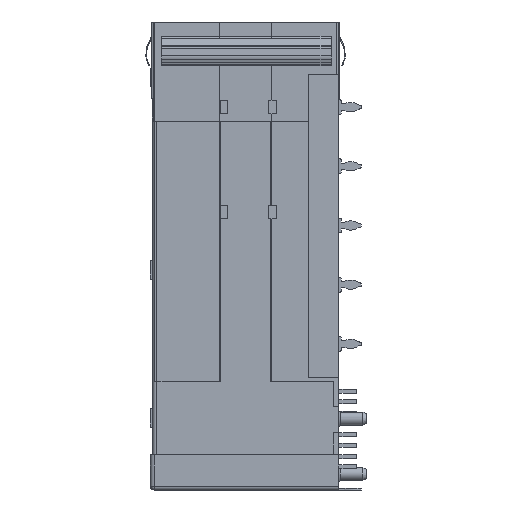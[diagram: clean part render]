
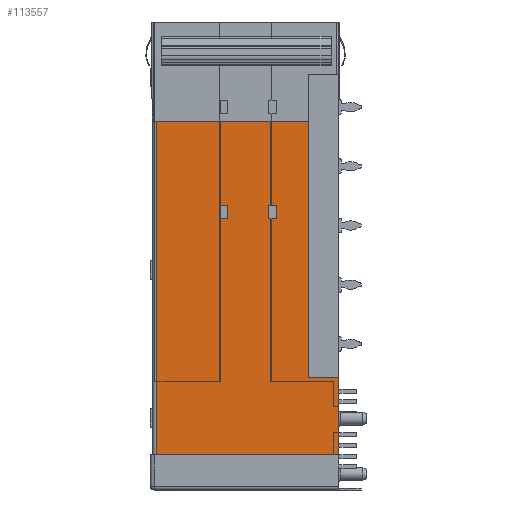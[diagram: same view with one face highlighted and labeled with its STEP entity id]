
A CAD part, left-side view. The second image highlights one B-rep face of the part: STEP entity #113557.
In plain terms, the highlighted planar face has unit normal (-1, 0, 0).
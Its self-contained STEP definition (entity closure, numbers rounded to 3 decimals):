
#1473 = VERTEX_POINT ( 'NONE', #28532 ) ;
#5031 = VERTEX_POINT ( 'NONE', #42836 ) ;
#6299 = LINE ( 'NONE', #52062, #43476 ) ;
#6506 = VERTEX_POINT ( 'NONE', #113922 ) ;
#8859 = ORIENTED_EDGE ( 'NONE', *, *, #83912, .T. ) ;
#9058 = ORIENTED_EDGE ( 'NONE', *, *, #63162, .T. ) ;
#9348 = CARTESIAN_POINT ( 'NONE',  ( -57.125, 9.45, -24.8 ) ) ;
#12290 = ORIENTED_EDGE ( 'NONE', *, *, #12943, .T. ) ;
#12943 = EDGE_CURVE ( 'NONE', #85125, #117077, #41960, .T. ) ;
#13271 = EDGE_CURVE ( 'NONE', #1473, #85125, #72815, .T. ) ;
#16233 = DIRECTION ( 'NONE',  ( 0., 0., -1. ) ) ;
#17884 = EDGE_LOOP ( 'NONE', ( #57800, #80168, #61790, #118593 ) ) ;
#19222 = CARTESIAN_POINT ( 'NONE',  ( -57.125, 25.2, -13.4 ) ) ;
#20818 = VERTEX_POINT ( 'NONE', #51347 ) ;
#20926 = EDGE_CURVE ( 'NONE', #36766, #78932, #56214, .T. ) ;
#22127 = DIRECTION ( 'NONE',  ( 0., 0., 1. ) ) ;
#23071 = LINE ( 'NONE', #75073, #128453 ) ;
#23163 = VERTEX_POINT ( 'NONE', #64031 ) ;
#26298 = ORIENTED_EDGE ( 'NONE', *, *, #84599, .T. ) ;
#28280 = VECTOR ( 'NONE', #50830, 1000. ) ;
#28532 = CARTESIAN_POINT ( 'NONE',  ( -57.125, 9.45, -26.6 ) ) ;
#28845 = EDGE_LOOP ( 'NONE', ( #66955, #26298, #123800, #101771, #8859, #82457 ) ) ;
#29426 = VERTEX_POINT ( 'NONE', #83802 ) ;
#32234 = DIRECTION ( 'NONE',  ( 0., 0., 1. ) ) ;
#32346 = VECTOR ( 'NONE', #47880, 1000. ) ;
#33072 = CARTESIAN_POINT ( 'NONE',  ( -57.125, 0., -63.25 ) ) ;
#33181 = EDGE_CURVE ( 'NONE', #20818, #78095, #6299, .T. ) ;
#33500 = CARTESIAN_POINT ( 'NONE',  ( -57.125, 0., -63.25 ) ) ;
#34097 = VECTOR ( 'NONE', #60010, 1000. ) ;
#34672 = EDGE_CURVE ( 'NONE', #78095, #35743, #38380, .T. ) ;
#35253 = VECTOR ( 'NONE', #67101, 1000. ) ;
#35743 = VERTEX_POINT ( 'NONE', #78528 ) ;
#36552 = ORIENTED_EDGE ( 'NONE', *, *, #103285, .T. ) ;
#36766 = VERTEX_POINT ( 'NONE', #48960 ) ;
#38380 = LINE ( 'NONE', #86206, #35253 ) ;
#39509 = ORIENTED_EDGE ( 'NONE', *, *, #13271, .T. ) ;
#41275 = CARTESIAN_POINT ( 'NONE',  ( -57.125, 16., -24.8 ) ) ;
#41656 = VECTOR ( 'NONE', #78809, 1000. ) ;
#41960 = LINE ( 'NONE', #80503, #72934 ) ;
#42836 = CARTESIAN_POINT ( 'NONE',  ( -57.125, 4.1, -13.4 ) ) ;
#43476 = VECTOR ( 'NONE', #22127, 1000. ) ;
#43824 = FACE_BOUND ( 'NONE', #107765, .T. ) ;
#44978 = CARTESIAN_POINT ( 'NONE',  ( -57.125, 8.45, -24.8 ) ) ;
#47880 = DIRECTION ( 'NONE',  ( 0., -1., 0. ) ) ;
#48960 = CARTESIAN_POINT ( 'NONE',  ( -57.125, 0., -58.5 ) ) ;
#50830 = DIRECTION ( 'NONE',  ( 0., 1., 0. ) ) ;
#51347 = CARTESIAN_POINT ( 'NONE',  ( -57.125, 16., -26.6 ) ) ;
#52062 = CARTESIAN_POINT ( 'NONE',  ( -57.125, 16., -24.8 ) ) ;
#52606 = PLANE ( 'NONE',  #123235 ) ;
#52889 = CARTESIAN_POINT ( 'NONE',  ( -57.125, 8.45, -24.8 ) ) ;
#53154 = CARTESIAN_POINT ( 'NONE',  ( -57.125, 4.1, -7.1 ) ) ;
#54183 = EDGE_CURVE ( 'NONE', #23163, #36766, #23071, .T. ) ;
#56214 = LINE ( 'NONE', #33500, #57820 ) ;
#56415 = DIRECTION ( 'NONE',  ( 0., -1., 0. ) ) ;
#57609 = FACE_OUTER_BOUND ( 'NONE', #28845, .T. ) ;
#57800 = ORIENTED_EDGE ( 'NONE', *, *, #34672, .T. ) ;
#57820 = VECTOR ( 'NONE', #73417, 1000. ) ;
#59066 = CARTESIAN_POINT ( 'NONE',  ( -57.125, 0., -48.1 ) ) ;
#60010 = DIRECTION ( 'NONE',  ( 0., 0., 1. ) ) ;
#60343 = LINE ( 'NONE', #73076, #128506 ) ;
#61458 = EDGE_CURVE ( 'NONE', #126161, #20818, #76345, .T. ) ;
#61790 = ORIENTED_EDGE ( 'NONE', *, *, #61458, .T. ) ;
#62113 = DIRECTION ( 'NONE',  ( -1., 0., 0. ) ) ;
#63162 = EDGE_CURVE ( 'NONE', #6506, #1473, #71269, .T. ) ;
#64031 = CARTESIAN_POINT ( 'NONE',  ( -57.125, 24.7, -58.5 ) ) ;
#65862 = CARTESIAN_POINT ( 'NONE',  ( -57.125, 24.7, -13.4 ) ) ;
#66442 = LINE ( 'NONE', #19222, #32346 ) ;
#66675 = DIRECTION ( 'NONE',  ( 0., 1., 0. ) ) ;
#66955 = ORIENTED_EDGE ( 'NONE', *, *, #120795, .F. ) ;
#67101 = DIRECTION ( 'NONE',  ( 0., -1., 0. ) ) ;
#70784 = CARTESIAN_POINT ( 'NONE',  ( -57.125, 9.45, -24.8 ) ) ;
#71269 = LINE ( 'NONE', #115989, #41656 ) ;
#72815 = LINE ( 'NONE', #9348, #34097 ) ;
#72934 = VECTOR ( 'NONE', #90501, 1000. ) ;
#73076 = CARTESIAN_POINT ( 'NONE',  ( -57.125, 15., -24.8 ) ) ;
#73417 = DIRECTION ( 'NONE',  ( 0., 0., 1. ) ) ;
#75073 = CARTESIAN_POINT ( 'NONE',  ( -57.125, 25.2, -58.5 ) ) ;
#75645 = CARTESIAN_POINT ( 'NONE',  ( -57.125, 24.7, -63.25 ) ) ;
#76156 = DIRECTION ( 'NONE',  ( 0., 0., -1. ) ) ;
#76345 = LINE ( 'NONE', #90304, #28280 ) ;
#78095 = VERTEX_POINT ( 'NONE', #41275 ) ;
#78528 = CARTESIAN_POINT ( 'NONE',  ( -57.125, 15., -24.8 ) ) ;
#78809 = DIRECTION ( 'NONE',  ( 0., 1., 0. ) ) ;
#78932 = VERTEX_POINT ( 'NONE', #59066 ) ;
#78982 = LINE ( 'NONE', #83637, #80494 ) ;
#80168 = ORIENTED_EDGE ( 'NONE', *, *, #120620, .T. ) ;
#80494 = VECTOR ( 'NONE', #66675, 1000. ) ;
#80503 = CARTESIAN_POINT ( 'NONE',  ( -57.125, 9.45, -24.8 ) ) ;
#82180 = DIRECTION ( 'NONE',  ( 0., 0., 1. ) ) ;
#82457 = ORIENTED_EDGE ( 'NONE', *, *, #126144, .T. ) ;
#83637 = CARTESIAN_POINT ( 'NONE',  ( -57.125, 0., -48.1 ) ) ;
#83802 = CARTESIAN_POINT ( 'NONE',  ( -57.125, 4.1, -48.1 ) ) ;
#83912 = EDGE_CURVE ( 'NONE', #78932, #29426, #78982, .T. ) ;
#84599 = EDGE_CURVE ( 'NONE', #88853, #23163, #94193, .T. ) ;
#84737 = DIRECTION ( 'NONE',  ( 0., 0., -1. ) ) ;
#85125 = VERTEX_POINT ( 'NONE', #70784 ) ;
#86206 = CARTESIAN_POINT ( 'NONE',  ( -57.125, 16., -24.8 ) ) ;
#88853 = VERTEX_POINT ( 'NONE', #65862 ) ;
#90304 = CARTESIAN_POINT ( 'NONE',  ( -57.125, 16., -26.6 ) ) ;
#90501 = DIRECTION ( 'NONE',  ( 0., -1., 0. ) ) ;
#90798 = LINE ( 'NONE', #53154, #92296 ) ;
#92296 = VECTOR ( 'NONE', #82180, 1000. ) ;
#92738 = VECTOR ( 'NONE', #16233, 1000. ) ;
#94193 = LINE ( 'NONE', #75645, #92738 ) ;
#98198 = FACE_BOUND ( 'NONE', #17884, .T. ) ;
#101771 = ORIENTED_EDGE ( 'NONE', *, *, #20926, .T. ) ;
#102827 = VECTOR ( 'NONE', #76156, 1000. ) ;
#103285 = EDGE_CURVE ( 'NONE', #117077, #6506, #116696, .T. ) ;
#107765 = EDGE_LOOP ( 'NONE', ( #12290, #36552, #9058, #39509 ) ) ;
#113557 = ADVANCED_FACE ( 'NONE', ( #43824, #98198, #57609 ), #52606, .T. ) ;
#113922 = CARTESIAN_POINT ( 'NONE',  ( -57.125, 8.45, -26.6 ) ) ;
#115989 = CARTESIAN_POINT ( 'NONE',  ( -57.125, 9.45, -26.6 ) ) ;
#116696 = LINE ( 'NONE', #44978, #102827 ) ;
#117077 = VERTEX_POINT ( 'NONE', #52889 ) ;
#118593 = ORIENTED_EDGE ( 'NONE', *, *, #33181, .T. ) ;
#120620 = EDGE_CURVE ( 'NONE', #35743, #126161, #60343, .T. ) ;
#120795 = EDGE_CURVE ( 'NONE', #88853, #5031, #66442, .T. ) ;
#122817 = CARTESIAN_POINT ( 'NONE',  ( -57.125, 15., -26.6 ) ) ;
#123235 = AXIS2_PLACEMENT_3D ( 'NONE', #33072, #62113, #32234 ) ;
#123800 = ORIENTED_EDGE ( 'NONE', *, *, #54183, .T. ) ;
#126144 = EDGE_CURVE ( 'NONE', #29426, #5031, #90798, .T. ) ;
#126161 = VERTEX_POINT ( 'NONE', #122817 ) ;
#128453 = VECTOR ( 'NONE', #56415, 1000. ) ;
#128506 = VECTOR ( 'NONE', #84737, 1000. ) ;
